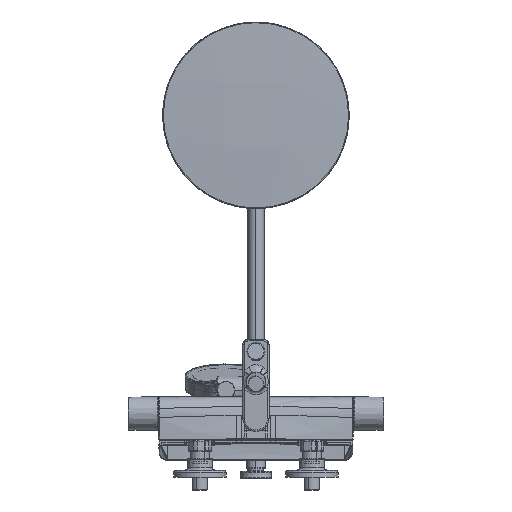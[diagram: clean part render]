
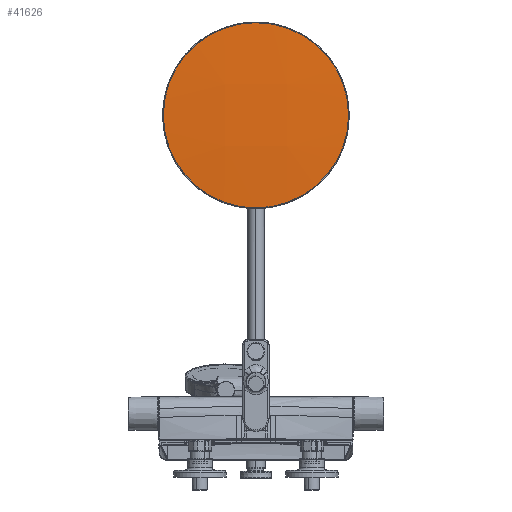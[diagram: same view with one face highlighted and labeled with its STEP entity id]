
A CAD part, front view. The second image highlights one B-rep face of the part: STEP entity #41626.
In plain terms, the highlighted free-form (B-spline) face has degree [3, 3] with [4, 4] control points.
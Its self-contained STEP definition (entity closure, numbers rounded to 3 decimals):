
#409 = CIRCLE ( 'NONE', #12155, 124.039 ) ;
#4354 = ORIENTED_EDGE ( 'NONE', *, *, #47017, .T. ) ;
#7990 = EDGE_LOOP ( 'NONE', ( #4354, #84517 ) ) ;
#8026 = CARTESIAN_POINT ( 'NONE',  ( 124.039, 84.669, 476.565 ) ) ;
#11125 = CARTESIAN_POINT ( 'NONE',  ( 42.375, 85.988, 603.105 ) ) ;
#12155 = AXIS2_PLACEMENT_3D ( 'NONE', #73540, #30537, #73093 ) ;
#14036 =( BOUNDED_SURFACE ( )  B_SPLINE_SURFACE ( 3, 3, ( 
 ( #37302, #52366, #16681, #24907 ),
 ( #11125, #72982, #45061, #30879 ),
 ( #80723, #44168, #65646, #17576 ),
 ( #79377, #65197, #78923, #38655 ) ),
 .UNSPECIFIED., .F., .F., .T. ) 
 B_SPLINE_SURFACE_WITH_KNOTS ( ( 4, 4 ),
 ( 4, 4 ),
 ( 0., 1. ),
 ( 0., 1. ),
 .UNSPECIFIED. ) 
 GEOMETRIC_REPRESENTATION_ITEM ( )  RATIONAL_B_SPLINE_SURFACE ( (
 ( 1., 0.999, 0.999, 1.),
 ( 0.999, 0.998, 0.998, 0.999),
 ( 0.999, 0.998, 0.998, 0.999),
 ( 1., 0.999, 0.999, 1.) ) ) 
 REPRESENTATION_ITEM ( '' )  SURFACE ( )  );
#16681 = CARTESIAN_POINT ( 'NONE',  ( 126.279, 83.024, 434.795 ) ) ;
#17576 = CARTESIAN_POINT ( 'NONE',  ( -41.627, 81.542, 350.59 ) ) ;
#18164 = CARTESIAN_POINT ( 'NONE',  ( 0., 84.669, 476.565 ) ) ;
#22591 = EDGE_CURVE ( 'NONE', #90424, #35995, #409, .T. ) ;
#24907 = CARTESIAN_POINT ( 'NONE',  ( 126.279, 85.623, 350.716 ) ) ;
#25036 = DIRECTION ( 'NONE',  ( -1., 0., 0. ) ) ;
#25729 = AXIS2_PLACEMENT_3D ( 'NONE', #18164, #81307, #25036 ) ;
#30537 = DIRECTION ( 'NONE',  ( 0., -1., 0.017 ) ) ;
#30879 = CARTESIAN_POINT ( 'NONE',  ( 42.375, 81.554, 350.591 ) ) ;
#31536 = CIRCLE ( 'NONE', #25729, 124.039 ) ;
#35995 = VERTEX_POINT ( 'NONE', #78527 ) ;
#37302 = CARTESIAN_POINT ( 'NONE',  ( 126.279, 90.05, 602.836 ) ) ;
#38655 = CARTESIAN_POINT ( 'NONE',  ( -125.531, 85.587, 350.715 ) ) ;
#41626 = ADVANCED_FACE ( 'NONE', ( #42358 ), #14036, .T. ) ;
#42358 = FACE_OUTER_BOUND ( 'NONE', #7990, .T. ) ;
#44168 = CARTESIAN_POINT ( 'NONE',  ( -41.627, 80.417, 519.038 ) ) ;
#45061 = CARTESIAN_POINT ( 'NONE',  ( 42.375, 78.951, 434.801 ) ) ;
#47017 = EDGE_CURVE ( 'NONE', #35995, #90424, #31536, .T. ) ;
#52366 = CARTESIAN_POINT ( 'NONE',  ( 126.279, 84.5, 518.901 ) ) ;
#65197 = CARTESIAN_POINT ( 'NONE',  ( -125.531, 84.464, 518.902 ) ) ;
#65646 = CARTESIAN_POINT ( 'NONE',  ( -41.627, 78.938, 434.801 ) ) ;
#72982 = CARTESIAN_POINT ( 'NONE',  ( 42.375, 80.43, 519.038 ) ) ;
#73093 = DIRECTION ( 'NONE',  ( -1., 0., 0. ) ) ;
#73540 = CARTESIAN_POINT ( 'NONE',  ( 0., 84.669, 476.565 ) ) ;
#78527 = CARTESIAN_POINT ( 'NONE',  ( -124.039, 84.669, 476.565 ) ) ;
#78923 = CARTESIAN_POINT ( 'NONE',  ( -125.531, 82.987, 434.795 ) ) ;
#79377 = CARTESIAN_POINT ( 'NONE',  ( -125.531, 90.014, 602.838 ) ) ;
#80723 = CARTESIAN_POINT ( 'NONE',  ( -41.627, 85.976, 603.105 ) ) ;
#81307 = DIRECTION ( 'NONE',  ( 0., -1., 0.017 ) ) ;
#84517 = ORIENTED_EDGE ( 'NONE', *, *, #22591, .T. ) ;
#90424 = VERTEX_POINT ( 'NONE', #8026 ) ;
